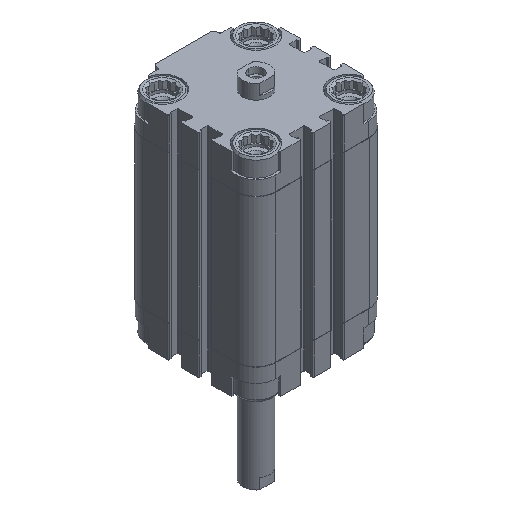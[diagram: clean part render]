
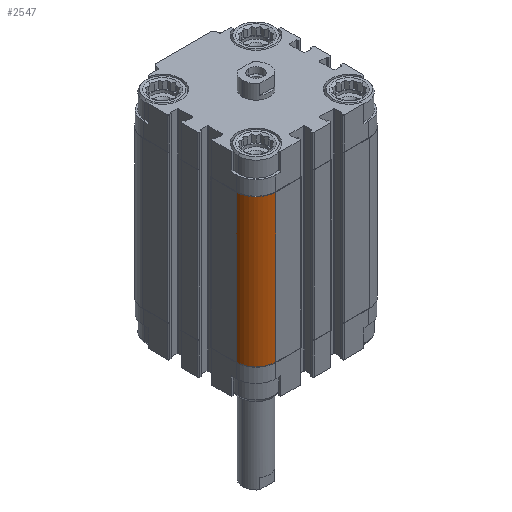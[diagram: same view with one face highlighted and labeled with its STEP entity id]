
A CAD part, isometric view. The second image highlights one B-rep face of the part: STEP entity #2547.
In plain terms, the highlighted cylindrical face has radius 9 mm (diameter 18 mm), a partial arc.
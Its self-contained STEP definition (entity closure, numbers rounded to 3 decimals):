
#150 = CARTESIAN_POINT ( 'NONE',  ( -21., -21., -81. ) ) ;
#566 = VECTOR ( 'NONE', #13014, 1000. ) ;
#661 = AXIS2_PLACEMENT_3D ( 'NONE', #150, #12606, #1989 ) ;
#1299 = EDGE_CURVE ( 'NONE', #7729, #2544, #12644, .T. ) ;
#1989 = DIRECTION ( 'NONE',  ( -1., 0., 0. ) ) ;
#2544 = VERTEX_POINT ( 'NONE', #17752 ) ;
#2547 = ADVANCED_FACE ( 'NONE', ( #21294 ), #20945, .T. ) ;
#3950 = ORIENTED_EDGE ( 'NONE', *, *, #22471, .F. ) ;
#4599 = VECTOR ( 'NONE', #14018, 1000. ) ;
#5040 = ORIENTED_EDGE ( 'NONE', *, *, #9533, .F. ) ;
#5193 = CARTESIAN_POINT ( 'NONE',  ( -21., -21., -81. ) ) ;
#7139 = EDGE_LOOP ( 'NONE', ( #3950, #5040, #8929, #15697 ) ) ;
#7729 = VERTEX_POINT ( 'NONE', #12229 ) ;
#8268 = AXIS2_PLACEMENT_3D ( 'NONE', #5193, #8837, #8608 ) ;
#8608 = DIRECTION ( 'NONE',  ( -1., 0., 0. ) ) ;
#8837 = DIRECTION ( 'NONE',  ( 0., 0., 1. ) ) ;
#8929 = ORIENTED_EDGE ( 'NONE', *, *, #1299, .T. ) ;
#9384 = CARTESIAN_POINT ( 'NONE',  ( -21., -21., -14.5 ) ) ;
#9458 = AXIS2_PLACEMENT_3D ( 'NONE', #9384, #19773, #18301 ) ;
#9477 = LINE ( 'NONE', #16450, #566 ) ;
#9533 = EDGE_CURVE ( 'NONE', #7729, #10443, #9477, .T. ) ;
#10443 = VERTEX_POINT ( 'NONE', #22167 ) ;
#11054 = CARTESIAN_POINT ( 'NONE',  ( -21., -30., -81. ) ) ;
#12229 = CARTESIAN_POINT ( 'NONE',  ( -30., -21., -81. ) ) ;
#12606 = DIRECTION ( 'NONE',  ( 0., 0., -1. ) ) ;
#12644 = CIRCLE ( 'NONE', #8268, 9. ) ;
#13014 = DIRECTION ( 'NONE',  ( 0., 0., 1. ) ) ;
#14018 = DIRECTION ( 'NONE',  ( 0., 0., 1. ) ) ;
#14935 = CIRCLE ( 'NONE', #9458, 9. ) ;
#15697 = ORIENTED_EDGE ( 'NONE', *, *, #19985, .T. ) ;
#16323 = CARTESIAN_POINT ( 'NONE',  ( -21., -30., -14.5 ) ) ;
#16450 = CARTESIAN_POINT ( 'NONE',  ( -30., -21., -81. ) ) ;
#17752 = CARTESIAN_POINT ( 'NONE',  ( -21., -30., -81. ) ) ;
#17912 = LINE ( 'NONE', #11054, #4599 ) ;
#18301 = DIRECTION ( 'NONE',  ( -1., 0., 0. ) ) ;
#19773 = DIRECTION ( 'NONE',  ( 0., 0., 1. ) ) ;
#19985 = EDGE_CURVE ( 'NONE', #2544, #21190, #17912, .T. ) ;
#20945 = CYLINDRICAL_SURFACE ( 'NONE', #661, 9. ) ;
#21190 = VERTEX_POINT ( 'NONE', #16323 ) ;
#21294 = FACE_OUTER_BOUND ( 'NONE', #7139, .T. ) ;
#22167 = CARTESIAN_POINT ( 'NONE',  ( -30., -21., -14.5 ) ) ;
#22471 = EDGE_CURVE ( 'NONE', #10443, #21190, #14935, .T. ) ;
